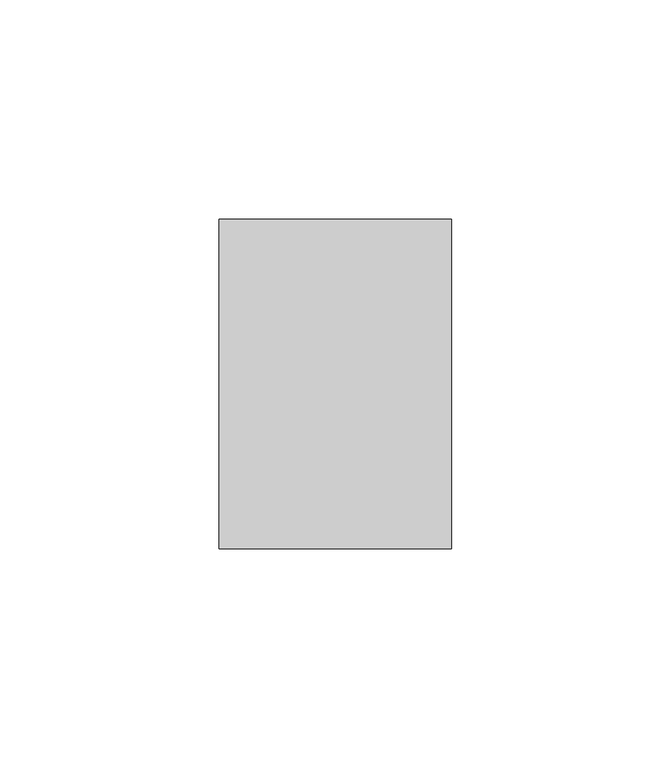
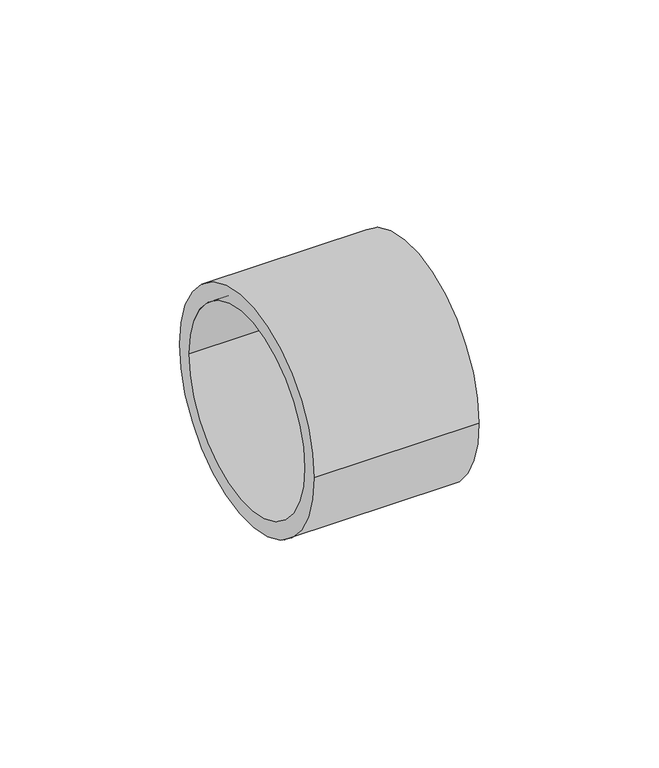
"""IFC4 building model written with IfcOpenShell, lengths in millimetres: pipe fitting geometry, REHAU_RAUTITAN_Sleeve_PX : REHAU_RAUTITAN_Sleeve_PX."""

from ifc_helpers import new_model, si_unit, point, frame, origin, origin_2d, place, context, project, spatial, circle_curve, trimmed, segment, composite_curve, outline, extrude, source, transform, mapped, element, save


def pipe_fitting_878e7421(model_context):
    return source(origin(), model_context, "Body", "SweptSolid", [
        extrude(outline(composite_curve([segment(trimmed(circle_curve(origin_2d(), 37.5), [point((-37.5, 0.0))], [point((37.5, 0.0))], False, "CARTESIAN"), True, "CONTINUOUS"), segment(trimmed(circle_curve(origin_2d(), 37.5), [point((37.5, 0.0))], [point((-37.5, 0.0))], False, "CARTESIAN"), True, "CONTINUOUS")], self_intersect=False), holes=[composite_curve([segment(trimmed(circle_curve(origin_2d(), 32.15), [point((-32.15, 0.0))], [point((32.15, 0.0))], True, "CARTESIAN"), True, "CONTINUOUS"), segment(trimmed(circle_curve(origin_2d(), 32.15), [point((32.15, 0.0))], [point((-32.15, 0.0))], True, "CARTESIAN"), True, "CONTINUOUS")], self_intersect=False)]), frame((0.0, 0.0, 0.0), z_axis=(1.0, 0.0, 0.0), x_axis=(0.0, 1.0, 0.0)), (0.0, 0.0, 1.0), 53.0),
    ])


if __name__ == "__main__":
    model = new_model("IFC4")
    model_context = context("Model", 3, world=origin())
    ifc_project = project(units=[si_unit("LENGTHUNIT", "METRE", prefix="MILLI")], contexts=[model_context])
    site = spatial("IfcSite", under=ifc_project)
    building = spatial("IfcBuilding", under=site)
    placement = place(None, origin())
    pipe_fitting_shape = pipe_fitting_878e7421(model_context)
    element("IfcPipeFitting", 1, ObjectType="REHAU_RAUTITAN_Sleeve_PX : REHAU_RAUTITAN_Sleeve_PX", at=placement, inside=building, context=model_context, shape_type="MappedRepresentation", body=[
        mapped(pipe_fitting_shape, transform((0.0, 0.0, 0.0), x_axis=(1.0, 0.0, 0.0), y_axis=(0.0, 1.0, 0.0), z_axis=(0.0, 0.0, 1.0))),
    ])
    save(model, "model.ifc")
